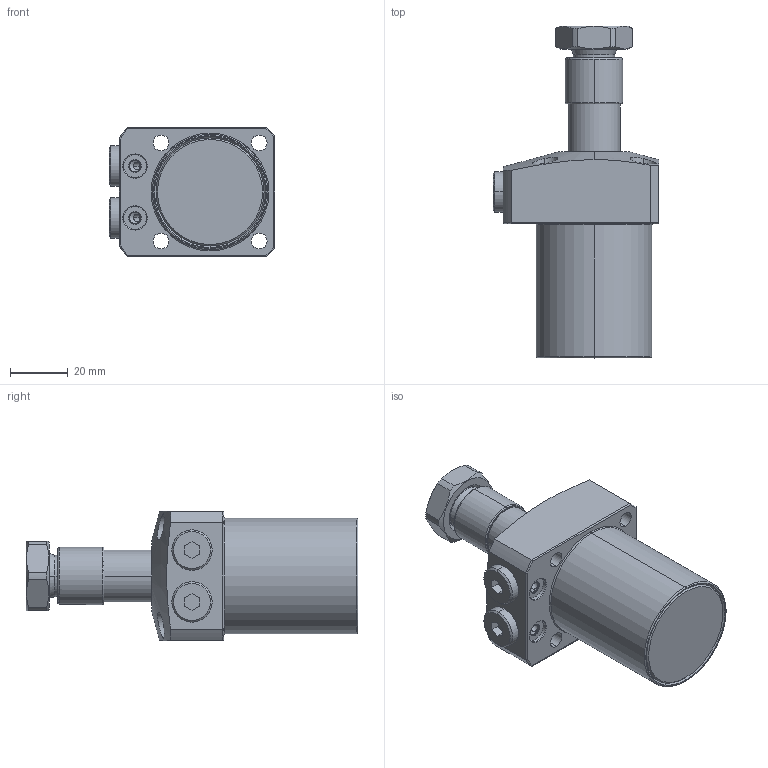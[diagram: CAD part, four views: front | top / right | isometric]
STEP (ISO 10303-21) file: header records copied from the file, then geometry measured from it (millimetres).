
FILE_DESCRIPTION(/* description */ (''),/* implementation_level */ '2;1');
FILE_NAME(/* name */ 'KTRC40-L.stp',/* time_stamp */ '2022-11-17T14:43:33+08:00',/* author */ (''),/* organization */ (''),/* preprocessor_version */ 'ST-DEVELOPER v16.7',/* originating_system */ 'SIEMENS PLM Software NX 12.0',/* authorisation */ '');
FILE_SCHEMA (('AP203_CONFIGURATION_CONTROLLED_3D_DESIGN_OF_MECHANICAL_PARTS_AND_ASSEMBLIES_MIM_LF { 1 0 10303 403 2 1 2}'));
Length unit declared in the file: millimetre
Products named in the file (6): KTRC40-L-03; KTRC40-L-04; KTRC40-L-01; KTRC40-L-02; KTRC40-L-05; LHA0400-CL_step
Assembly tree (6 placements, depth 2):
  LHA0400-CL_step
    KTRC40-L-05  x2
    KTRC40-L-02
    KTRC40-L-01
    KTRC40-L-04
    KTRC40-L-03
Bounding box: 57.5 x 115 x 45 mm (x, y, z)
Volume: 123430.7 mm3; surface area: 25344.4 mm2
Topology: 6 solids, 6 shells, 225 faces, 545 edges, 343 vertices
Faces by surface type: cylinder 79, plane 75, cone 49, torus 20, sphere 2
Entity records: 7596 total; most frequent: CARTESIAN_POINT 1902, DIRECTION 1073, ORIENTED_EDGE 1030, EDGE_CURVE 515, AXIS2_PLACEMENT_3D 439, VERTEX_POINT 325, EDGE_LOOP 238, CIRCLE 220
